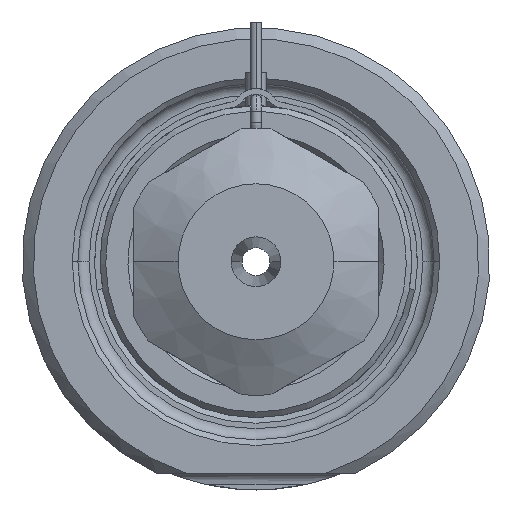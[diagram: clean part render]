
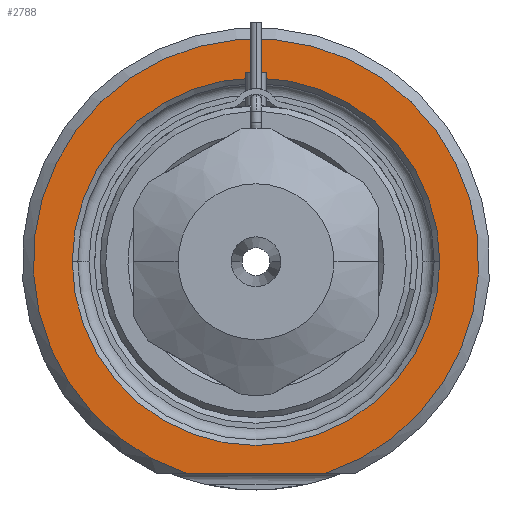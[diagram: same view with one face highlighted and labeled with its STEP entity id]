
A CAD part, front view. The second image highlights one B-rep face of the part: STEP entity #2788.
In plain terms, the highlighted planar face has unit normal (0, -1, 0).
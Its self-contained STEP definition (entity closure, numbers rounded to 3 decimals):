
#1=DIRECTION('',(1.,0.,0.));
#2=VECTOR('',#1,12.49);
#3=CARTESIAN_POINT('',(-6.245,0.,-19.));
#4=LINE('',#3,#2);
#5=CARTESIAN_POINT('',(0.,0.,0.));
#6=DIRECTION('',(0.,1.,0.));
#7=DIRECTION('',(-1.,0.,0.));
#8=AXIS2_PLACEMENT_3D('',#5,#6,#7);
#10=CARTESIAN_POINT('',(0.,0.,0.));
#11=DIRECTION('',(0.,1.,0.));
#12=DIRECTION('',(1.,0.,0.));
#13=AXIS2_PLACEMENT_3D('',#10,#11,#12);
#119=CARTESIAN_POINT('',(0.,0.,0.));
#120=DIRECTION('',(0.,-1.,0.));
#121=DIRECTION('',(0.312,0.,-0.95));
#122=AXIS2_PLACEMENT_3D('',#119,#120,#121);
#2331=CARTESIAN_POINT('',(-16.5,0.,0.));
#2332=CARTESIAN_POINT('',(16.5,0.,0.));
#2333=VERTEX_POINT('',#2331);
#2334=VERTEX_POINT('',#2332);
#2371=CARTESIAN_POINT('',(-6.245,0.,-19.));
#2372=CARTESIAN_POINT('',(6.245,0.,-19.));
#2373=VERTEX_POINT('',#2371);
#2374=VERTEX_POINT('',#2372);
#2771=CARTESIAN_POINT('',(0.,0.,0.));
#2772=DIRECTION('',(0.,-1.,0.));
#2773=DIRECTION('',(1.,0.,0.));
#2774=AXIS2_PLACEMENT_3D('',#2771,#2772,#2773);
#2775=PLANE('',#2774);
#2777=ORIENTED_EDGE('',*,*,#2776,.F.);
#2779=ORIENTED_EDGE('',*,*,#2778,.F.);
#2780=EDGE_LOOP('',(#2777,#2779));
#2781=FACE_OUTER_BOUND('',#2780,.F.);
#2783=ORIENTED_EDGE('',*,*,#2782,.F.);
#2785=ORIENTED_EDGE('',*,*,#2784,.F.);
#2786=EDGE_LOOP('',(#2783,#2785));
#2787=FACE_BOUND('',#2786,.F.);
#2788=ADVANCED_FACE('',(#2781,#2787),#2775,.T.);
#9=CIRCLE('',#8,16.5);
#14=CIRCLE('',#13,16.5);
#123=CIRCLE('',#122,20.);
#2776=EDGE_CURVE('',#2373,#2374,#4,.T.);
#2778=EDGE_CURVE('',#2374,#2373,#123,.T.);
#2782=EDGE_CURVE('',#2333,#2334,#9,.T.);
#2784=EDGE_CURVE('',#2334,#2333,#14,.T.);
